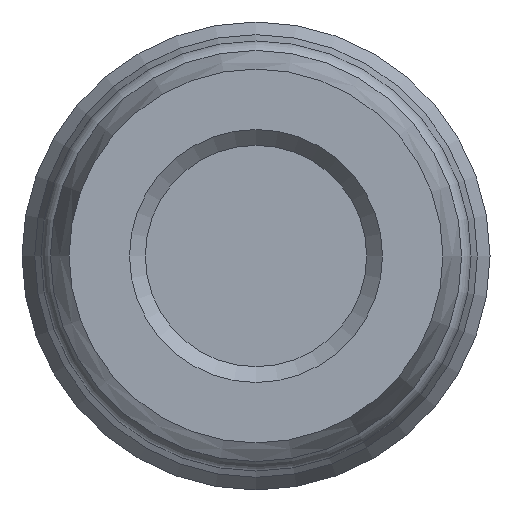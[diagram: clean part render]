
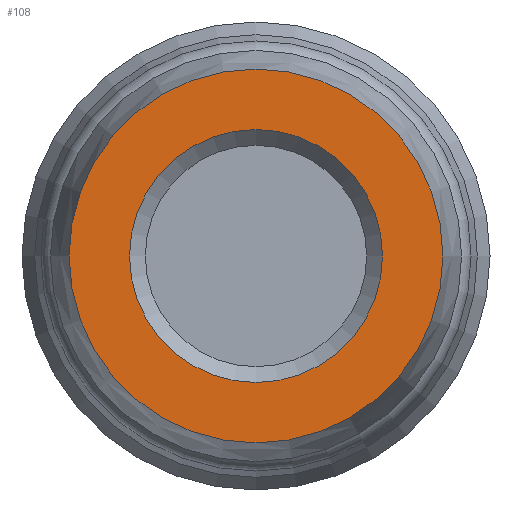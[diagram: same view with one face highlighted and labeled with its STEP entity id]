
A CAD part, left-side view. The second image highlights one B-rep face of the part: STEP entity #108.
In plain terms, the highlighted planar face has unit normal (-1, 0, 0).
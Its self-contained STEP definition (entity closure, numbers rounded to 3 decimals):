
#91=PLANE('',#563);
#108=ADVANCED_FACE('',(#171,#172),#91,.F.);
#171=FACE_BOUND('',#250,.T.);
#172=FACE_BOUND('',#251,.T.);
#250=EDGE_LOOP('',(#330));
#251=EDGE_LOOP('',(#331));
#330=ORIENTED_EDGE('',*,*,#469,.F.);
#331=ORIENTED_EDGE('',*,*,#468,.T.);
#422=VERTEX_POINT('',#801);
#423=VERTEX_POINT('',#804);
#468=EDGE_CURVE('',#422,#422,#517,.T.);
#469=EDGE_CURVE('',#423,#423,#518,.T.);
#517=CIRCLE('',#560,4.);
#518=CIRCLE('',#562,5.911);
#560=AXIS2_PLACEMENT_3D('',#800,#650,#651);
#562=AXIS2_PLACEMENT_3D('',#803,#654,#655);
#563=AXIS2_PLACEMENT_3D('',#805,#656,#657);
#650=DIRECTION('',(1.,0.,0.));
#651=DIRECTION('',(0.,1.,0.));
#654=DIRECTION('',(1.,0.,0.));
#655=DIRECTION('',(0.,1.,0.));
#656=DIRECTION('',(1.,0.,0.));
#657=DIRECTION('',(0.,-1.,0.));
#800=CARTESIAN_POINT('',(-38.646,60.118,0.));
#801=CARTESIAN_POINT('',(-38.646,64.118,0.));
#803=CARTESIAN_POINT('',(-38.646,60.118,0.));
#804=CARTESIAN_POINT('',(-38.646,66.028,0.));
#805=CARTESIAN_POINT('',(-38.646,64.118,0.));
